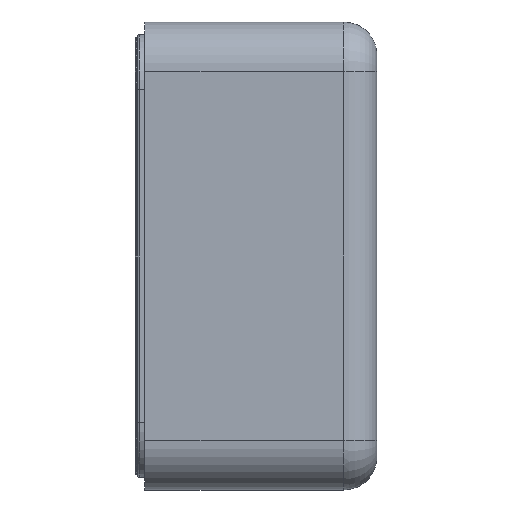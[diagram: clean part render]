
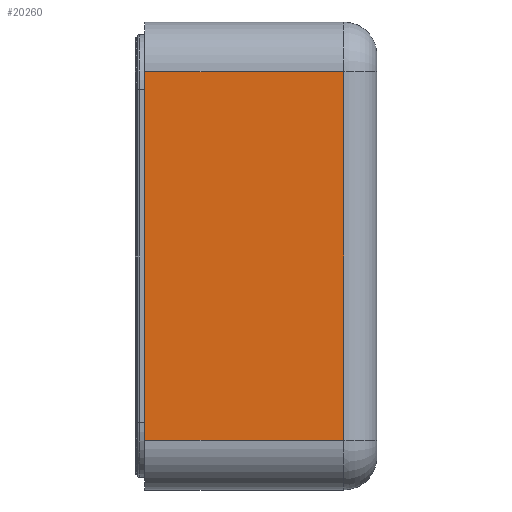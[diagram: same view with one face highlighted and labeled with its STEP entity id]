
A CAD part, left-side view. The second image highlights one B-rep face of the part: STEP entity #20260.
In plain terms, the highlighted planar face has unit normal (-1, 0, 0).
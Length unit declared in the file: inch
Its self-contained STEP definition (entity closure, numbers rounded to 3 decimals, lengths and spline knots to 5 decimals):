
#788 = LINE ( 'NONE', #33052, #21252 ) ;
#2026 = DIRECTION ( 'NONE',  ( -1., 0., 0. ) ) ;
#2856 = CARTESIAN_POINT ( 'NONE',  ( -4.77859, -2.99604, 2.77359 ) ) ;
#5057 = ORIENTED_EDGE ( 'NONE', *, *, #14739, .T. ) ;
#5368 = VECTOR ( 'NONE', #43423, 39.37008 ) ;
#7496 = DIRECTION ( 'NONE',  ( 0., 0., 1. ) ) ;
#9973 = VERTEX_POINT ( 'NONE', #21475 ) ;
#10067 = EDGE_CURVE ( 'NONE', #9973, #38905, #788, .T. ) ;
#10528 = CARTESIAN_POINT ( 'NONE',  ( -4.77859, 0., 2.77359 ) ) ;
#12816 = PLANE ( 'NONE',  #35924 ) ;
#14739 = EDGE_CURVE ( 'NONE', #23787, #40535, #39759, .T. ) ;
#20260 = ADVANCED_FACE ( 'NONE', ( #25611 ), #12816, .T. ) ;
#20278 = CARTESIAN_POINT ( 'NONE',  ( -4.77859, -15.6205, 2.77359 ) ) ;
#20484 = VECTOR ( 'NONE', #22208, 39.37008 ) ;
#21101 = VECTOR ( 'NONE', #38036, 39.37008 ) ;
#21252 = VECTOR ( 'NONE', #7496, 39.37008 ) ;
#21475 = CARTESIAN_POINT ( 'NONE',  ( -4.77859, 0., -2.77359 ) ) ;
#21687 = CARTESIAN_POINT ( 'NONE',  ( -4.77859, -15.6205, -2.77359 ) ) ;
#22208 = DIRECTION ( 'NONE',  ( 0., 0., 1. ) ) ;
#22727 = ORIENTED_EDGE ( 'NONE', *, *, #44298, .T. ) ;
#23787 = VERTEX_POINT ( 'NONE', #46761 ) ;
#24771 = EDGE_LOOP ( 'NONE', ( #35813, #5057, #22727, #44346 ) ) ;
#25611 = FACE_OUTER_BOUND ( 'NONE', #24771, .T. ) ;
#27421 = DIRECTION ( 'NONE',  ( 0., 0., 1. ) ) ;
#29115 = EDGE_CURVE ( 'NONE', #9973, #23787, #33196, .T. ) ;
#33027 = LINE ( 'NONE', #20278, #21101 ) ;
#33052 = CARTESIAN_POINT ( 'NONE',  ( -4.77859, 0., -3.52359 ) ) ;
#33196 = LINE ( 'NONE', #21687, #5368 ) ;
#35813 = ORIENTED_EDGE ( 'NONE', *, *, #29115, .T. ) ;
#35924 = AXIS2_PLACEMENT_3D ( 'NONE', #38220, #2026, #27421 ) ;
#38036 = DIRECTION ( 'NONE',  ( 0., 1., 0. ) ) ;
#38220 = CARTESIAN_POINT ( 'NONE',  ( -4.77859, -15.6205, -3.52359 ) ) ;
#38905 = VERTEX_POINT ( 'NONE', #10528 ) ;
#39759 = LINE ( 'NONE', #43950, #20484 ) ;
#40535 = VERTEX_POINT ( 'NONE', #2856 ) ;
#43423 = DIRECTION ( 'NONE',  ( 0., -1., 0. ) ) ;
#43950 = CARTESIAN_POINT ( 'NONE',  ( -4.77859, -2.99604, -3.52359 ) ) ;
#44298 = EDGE_CURVE ( 'NONE', #40535, #38905, #33027, .T. ) ;
#44346 = ORIENTED_EDGE ( 'NONE', *, *, #10067, .F. ) ;
#46761 = CARTESIAN_POINT ( 'NONE',  ( -4.77859, -2.99604, -2.77359 ) ) ;
